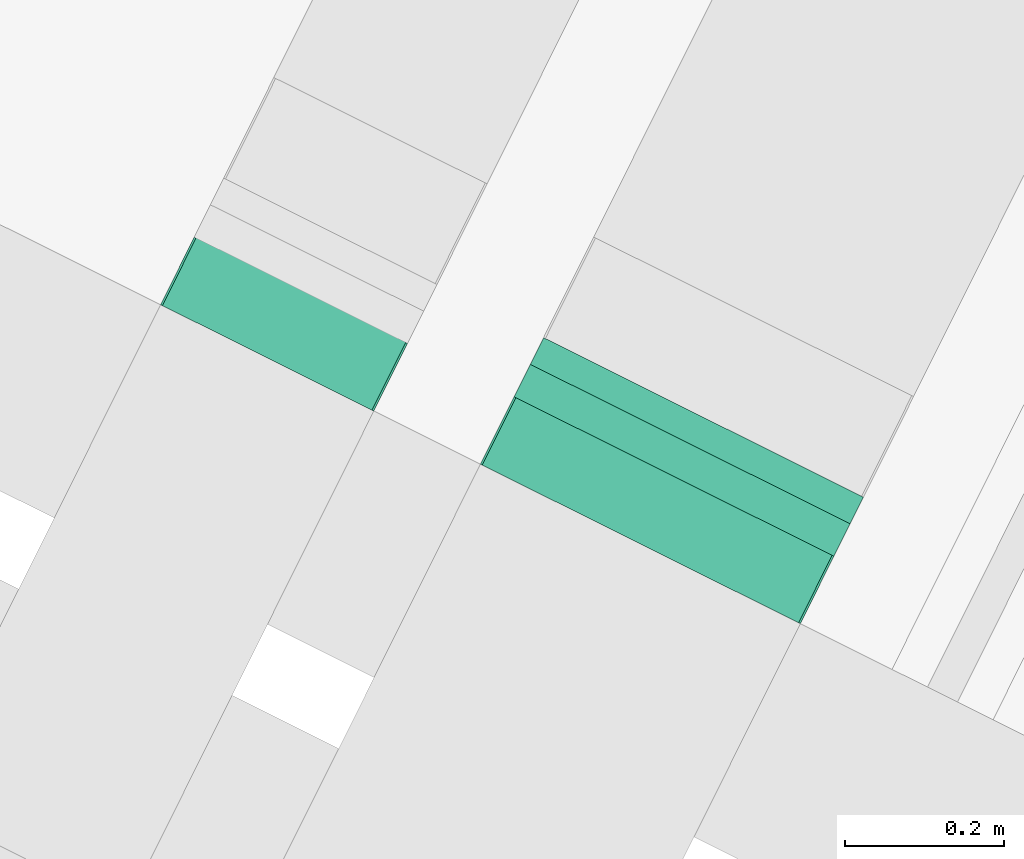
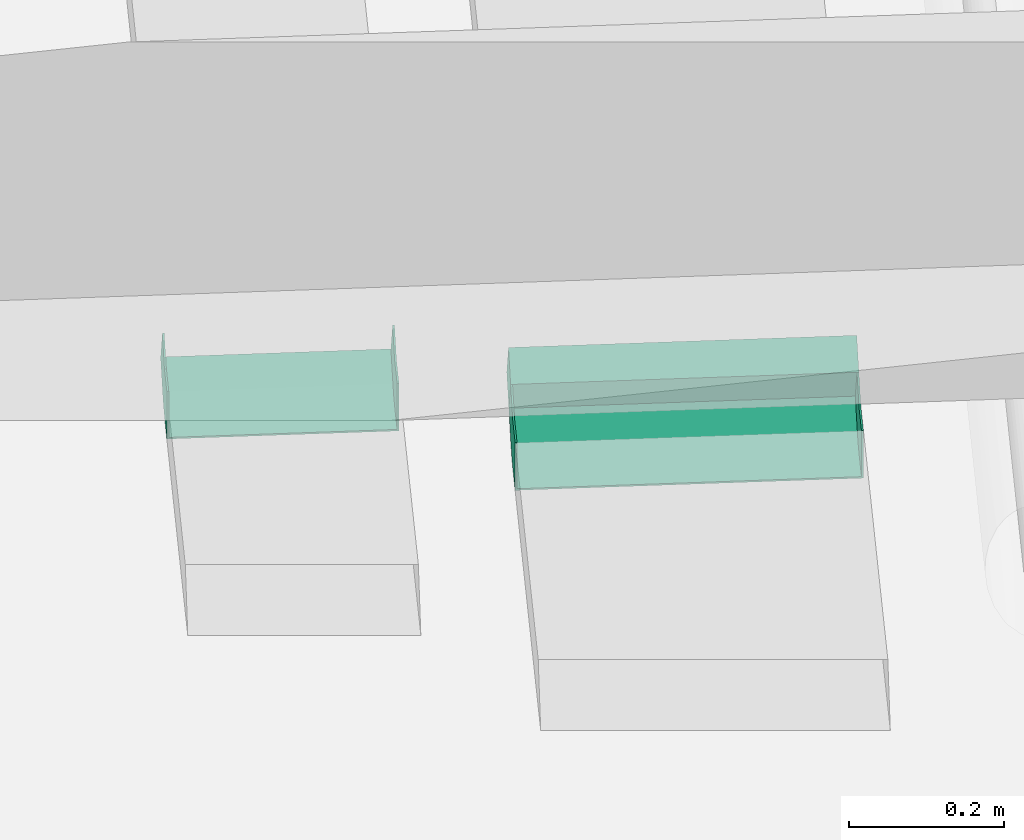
# One storey, part 28 of 47: 2 flow fittings, 1 flow segment.
"""IFC2X3 building model written with IfcOpenShell, lengths in metres."""

import ifcopenshell
import ifcopenshell.guid

model = None  # the IFC model being written
_history = None  # IfcOwnerHistory: only IFC2X3 demands one
_inside = {}  # id of a spatial element -> (the spatial element, [elements in it])
_under = {}  # id of a project, library or spatial element -> (it, [spatial elements below it])
_declared = {}  # id of a project -> (the project, [libraries it declares])
_typed = {}  # id of a type object -> (the type object, [elements of that type])
_made_of = {}  # id of a material, layer set ... -> (it, [elements and type objects made of it])


def new_model(schema):
    """Start an empty IFC model of exactly this schema.

    Asked for "IFC4X3", IfcOpenShell would pick the latest addendum, in which some entities
    have other attributes; the version numbers below select the first issue.
    IFC2X3 requires an IfcOwnerHistory on every rooted entity: one is made here for all.
    """
    global model, _history
    if schema == "IFC4X3":
        model = ifcopenshell.file(schema_version=(4, 3, 0, 0))
    else:
        model = ifcopenshell.file(schema=schema)
    _inside.clear()
    _under.clear()
    _declared.clear()
    _typed.clear()
    _made_of.clear()
    _history = None
    if model.schema == "IFC2X3":
        org = make("IfcOrganization", Name="unknown")
        user = make(
            "IfcPersonAndOrganization",
            ThePerson=make("IfcPerson", FamilyName="unknown"),
            TheOrganization=org,
        )
        app = make(
            "IfcApplication",
            ApplicationDeveloper=org,
            Version="unknown",
            ApplicationFullName="unknown",
            ApplicationIdentifier="unknown",
        )
        _history = make(
            "IfcOwnerHistory",
            OwningUser=user,
            OwningApplication=app,
            ChangeAction="ADDED",
            CreationDate=0,
        )
    return model


def make(cls, **values):
    """One entity of the class cls with the attributes given. An attribute that is None is left unset."""
    return model.create_entity(
        cls, **{name: value for name, value in values.items() if value is not None}
    )


def entity(cls, *values):
    """Any entity or typed value of the class cls, its attributes in the order of the schema. None: left unset."""
    e = model.create_entity(cls)
    for i, value in enumerate(values):
        if value is not None:
            e[i] = value
    return e


def rooted(cls, **values):
    """An entity with a GlobalId (a new one), such as an element, a storey or a relation."""
    return make(cls, GlobalId=ifcopenshell.guid.new(), OwnerHistory=_history, **values)


def si_unit(unit_type, name, prefix=None):
    """IfcSIUnit, for example si_unit("LENGTHUNIT", "METRE", prefix="MILLI")."""
    return make("IfcSIUnit", UnitType=unit_type, Prefix=prefix, Name=name)


def converted_unit(unit_type, name, factor, base, dimensions=None, offset=None):
    """IfcConversionBasedUnit, such as the inch: factor (a typed value) times the base unit."""
    return make(
        "IfcConversionBasedUnit"
        if offset is None
        else "IfcConversionBasedUnitWithOffset",
        ConversionOffset=offset,
        Dimensions=None
        if dimensions is None
        else entity("IfcDimensionalExponents", *dimensions),
        UnitType=unit_type,
        Name=name,
        ConversionFactor=make(
            "IfcMeasureWithUnit", ValueComponent=factor, UnitComponent=base
        ),
    )


def derived_unit(unit_type, elements):
    """IfcDerivedUnit: a product of units, each with its exponent."""
    return make(
        "IfcDerivedUnit",
        Elements=[
            make("IfcDerivedUnitElement", Unit=unit, Exponent=power)
            for unit, power in elements
        ],
        UnitType=unit_type,
    )


def assignment(units):
    """IfcUnitAssignment: the units of a project."""
    return None if units is None else make("IfcUnitAssignment", Units=units)


def point(xyz):
    """IfcCartesianPoint."""
    return None if xyz is None else make("IfcCartesianPoint", Coordinates=xyz)


def direction(xyz):
    """IfcDirection."""
    return None if xyz is None else make("IfcDirection", DirectionRatios=xyz)


def frame(location, z_axis=None, x_axis=None):
    """IfcAxis2Placement3D, a coordinate frame: its origin and axes. An axis left out is left unset."""
    return make(
        "IfcAxis2Placement3D",
        Location=point(location),
        Axis=direction(z_axis),
        RefDirection=direction(x_axis),
    )


def frame_2d(location, x_axis=None):
    """IfcAxis2Placement2D, a coordinate frame in the plane: its origin and x axis."""
    return make(
        "IfcAxis2Placement2D", Location=point(location), RefDirection=direction(x_axis)
    )


def origin():
    """The frame at (0, 0, 0) with its axes left unset."""
    return frame((0.0, 0.0, 0.0))


def place(relative_to, where):
    """IfcLocalPlacement: puts the frame where relative to a parent placement (None: the world)."""
    return make(
        "IfcLocalPlacement", PlacementRelTo=relative_to, RelativePlacement=where
    )


def context(
    kind, dimensions, precision=None, world=None, true_north=None, identifier=None
):
    """IfcGeometricRepresentationContext, for example the 3D "Model" context."""
    return make(
        "IfcGeometricRepresentationContext",
        ContextIdentifier=identifier,
        ContextType=kind,
        CoordinateSpaceDimension=dimensions,
        Precision=precision,
        WorldCoordinateSystem=world,
        TrueNorth=true_north,
    )


def subcontext(parent, identifier, kind, view, scale=None):
    """IfcGeometricRepresentationSubContext, for example "Body" below "Model"."""
    return make(
        "IfcGeometricRepresentationSubContext",
        ContextIdentifier=identifier,
        ContextType=kind,
        ParentContext=parent,
        TargetScale=scale,
        TargetView=view,
    )


def project(units=None, contexts=None):
    """IfcProject with its units and contexts."""
    return rooted(
        "IfcProject",
        Name="project",
        RepresentationContexts=contexts,
        UnitsInContext=assignment(units),
    )


def spatial(cls, under=None, at=None, **own):
    """A site, building, storey or space (cls), placed at a placement, below another one or the project."""
    s = rooted(cls, ObjectPlacement=at, **own)
    if under is not None:
        _under.setdefault(under.id(), (under, []))[1].append(s)
    return s


def profile(cls, at=None, kind="AREA", **sizes):
    """A parametric profile (cls). Its sizes go by their IFC names, for example OverallWidth=200.0."""
    return make(cls, ProfileType=kind, Position=at, **sizes)


def rectangle(**sizes):
    """IfcRectangleProfileDef."""
    return profile("IfcRectangleProfileDef", **sizes)


def extrude(swept, where, along, depth):
    """IfcExtrudedAreaSolid: the profile swept, set in the frame where, extruded along a direction by depth."""
    return make(
        "IfcExtrudedAreaSolid",
        SweptArea=swept,
        Position=where,
        ExtrudedDirection=direction(along),
        Depth=depth,
    )


def faces_of(points, faces, orient=None, outer=None):
    """IfcFace entities. A face is a list of loops; a loop is a list of indices into points, from 0.

    orient and outer hold one flag for each loop. By default every Orientation is true, the
    first loop of a face is its IfcFaceOuterBound and the others are IfcFaceBound.
    """
    made = []
    for i, loops in enumerate(faces):
        bounds = []
        for j, loop in enumerate(loops):
            is_outer = j == 0 if outer is None else outer[i][j]
            bounds.append(
                make(
                    "IfcFaceOuterBound" if is_outer else "IfcFaceBound",
                    Bound=make("IfcPolyLoop", Polygon=[points[k] for k in loop]),
                    Orientation=True if orient is None else orient[i][j],
                )
            )
        made.append(make("IfcFace", Bounds=bounds))
    return made


def faceted_brep(points, faces, orient=None, outer=None, voids=None):
    """IfcFacetedBrep: a solid bounded by flat faces; with voids (closed shells), ...WithVoids."""
    shared = [point(p) for p in points]
    hull = make("IfcClosedShell", CfsFaces=faces_of(shared, faces, orient, outer))
    if voids is None:
        return make("IfcFacetedBrep", Outer=hull)
    return make(
        "IfcFacetedBrepWithVoids",
        Outer=hull,
        Voids=[
            make(cls, CfsFaces=faces_of(shared, fs, o, b)) for cls, fs, o, b in voids
        ],
    )


def shape(context_of_items, identifier, shape_type, items):
    """IfcShapeRepresentation: the items that make up one representation, for example the "Body"."""
    return make(
        "IfcShapeRepresentation",
        ContextOfItems=context_of_items,
        RepresentationIdentifier=identifier,
        RepresentationType=shape_type,
        Items=items,
    )


def source(mapping_origin, context_of_items, identifier, shape_type, items):
    """IfcRepresentationMap: a shape defined once, which mapped items show again and again."""
    return make(
        "IfcRepresentationMap",
        MappingOrigin=mapping_origin,
        MappedRepresentation=shape(context_of_items, identifier, shape_type, items),
    )


def transform(
    local_origin,
    x_axis=None,
    y_axis=None,
    z_axis=None,
    scale=None,
    scale2=None,
    scale3=None,
    uniform=True,
):
    """IfcCartesianTransformationOperator3D, or its non-uniform kind. x_axis, y_axis, z_axis: its Axis1, 2, 3."""
    if uniform:
        return make(
            "IfcCartesianTransformationOperator3D",
            Axis1=direction(x_axis),
            Axis2=direction(y_axis),
            LocalOrigin=point(local_origin),
            Scale=scale,
            Axis3=direction(z_axis),
        )
    return make(
        "IfcCartesianTransformationOperator3DnonUniform",
        Axis1=direction(x_axis),
        Axis2=direction(y_axis),
        LocalOrigin=point(local_origin),
        Scale=scale,
        Axis3=direction(z_axis),
        Scale2=scale2,
        Scale3=scale3,
    )


def mapped(mapping_source, mapping_target):
    """IfcMappedItem: shows the shape of a source again, moved by a transform."""
    return make(
        "IfcMappedItem", MappingSource=mapping_source, MappingTarget=mapping_target
    )


def made_of(thing, what):
    """Note that an element or type object is made of a material, layer set ...; save() writes the relation."""
    if what is not None:
        _made_of.setdefault(what.id(), (what, []))[1].append(thing)
    return thing


def type_object(cls, material=None, **own):
    """A type object (cls), such as IfcWallType, which elements share."""
    return made_of(rooted(cls, **own), material)


def type_shapes(of_type, sources):
    """Give a type object the sources (RepresentationMaps) that its elements show as mapped items."""
    of_type.RepresentationMaps = sources


def element(
    cls,
    number,
    at=None,
    inside=None,
    cuts=None,
    type_object=None,
    material=None,
    context=None,
    identifier="Body",
    shape_type=None,
    held_by="IfcProductDefinitionShape",
    body=None,
    shapes=None,
    **own,
):
    """One element of the class cls, such as IfcWall. Its Tag is "e" and its number.

    at: its placement. inside: the storey or other place that contains it. cuts: it is an
    opening in that element (IfcRelVoidsElement). A single representation is given by context,
    identifier, shape_type and body (its items); several are given by shapes. held_by: the class
    of the entity that holds the representations. save() writes the other relations.
    """
    e = rooted(cls, Tag="e%d" % number, ObjectPlacement=at, **own)
    if body is not None:
        shapes = [shape(context, identifier, shape_type, body)]
    if shapes is not None:
        e.Representation = make(held_by, Representations=shapes)
    if inside is not None:
        _inside.setdefault(inside.id(), (inside, []))[1].append(e)
    if cuts is not None:
        rooted(
            "IfcRelVoidsElement", RelatingBuildingElement=cuts, RelatedOpeningElement=e
        )
    if type_object is not None:
        _typed.setdefault(type_object.id(), (type_object, []))[1].append(e)
    return made_of(e, material)


def aggregate(whole, parts):
    """IfcRelAggregates: a whole, such as a stair, and the parts it consists of."""
    return rooted("IfcRelAggregates", RelatingObject=whole, RelatedObjects=parts)


def save(model, path):
    """Write the relations noted so far, then the file.

    IfcRelAggregates (storeys below a building ...), IfcRelContainedInSpatialStructure (elements
    in a storey), IfcRelDefinesByType, IfcRelAssociatesMaterial and IfcRelDeclares: one each for
    every whole, place, type object, material and project.
    """
    for whole, parts in _under.values():
        aggregate(whole, parts)
    for where, things in _inside.values():
        rooted(
            "IfcRelContainedInSpatialStructure",
            RelatedElements=things,
            RelatingStructure=where,
        )
    for kind, things in _typed.values():
        rooted("IfcRelDefinesByType", RelatedObjects=things, RelatingType=kind)
    for what, things in _made_of.values():
        rooted("IfcRelAssociatesMaterial", RelatedObjects=things, RelatingMaterial=what)
    for by, libraries in _declared.values():
        rooted("IfcRelDeclares", RelatingContext=by, RelatedDefinitions=libraries)
    model.write(path)


model = new_model("IFC2X3")

# Units and contexts
model_context = context("Model", 3, precision=1e-05, world=origin(), true_north=direction((0.894925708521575, 0.446215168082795)))
context_of_model = context(None, 3, precision=1e-05, world=origin(), true_north=direction((0.894925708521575, 0.446215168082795)))
body_context = subcontext(model_context, "Body", "Model", "MODEL_VIEW")
ifc_project = project(units=[si_unit("LENGTHUNIT", "METRE"), si_unit("AREAUNIT", "SQUARE_METRE"), si_unit("VOLUMEUNIT", "CUBIC_METRE"), converted_unit("PLANEANGLEUNIT", "DEGREE", entity("IfcRatioMeasure", 0.0174532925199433), si_unit("PLANEANGLEUNIT", "RADIAN"), dimensions=[0, 0, 0, 0, 0, 0, 0]), si_unit("MASSUNIT", "GRAM", prefix="KILO"), si_unit("TIMEUNIT", "SECOND"), si_unit("FREQUENCYUNIT", "HERTZ"), si_unit("THERMODYNAMICTEMPERATUREUNIT", "DEGREE_CELSIUS"), derived_unit("THERMALTRANSMITTANCEUNIT", [(si_unit("MASSUNIT", "GRAM", prefix="KILO"), 1), (si_unit("THERMODYNAMICTEMPERATUREUNIT", "KELVIN"), -1), (si_unit("TIMEUNIT", "SECOND"), -3)]), derived_unit("VOLUMETRICFLOWRATEUNIT", [(si_unit("LENGTHUNIT", "METRE"), 3), (si_unit("TIMEUNIT", "SECOND"), -1)]), si_unit("ELECTRICCURRENTUNIT", "AMPERE"), si_unit("ELECTRICVOLTAGEUNIT", "VOLT"), si_unit("POWERUNIT", "WATT"), si_unit("FORCEUNIT", "NEWTON", prefix="KILO"), si_unit("ILLUMINANCEUNIT", "LUX"), si_unit("LUMINOUSFLUXUNIT", "LUMEN"), si_unit("LUMINOUSINTENSITYUNIT", "CANDELA"), si_unit("PRESSUREUNIT", "PASCAL")], contexts=[model_context, context_of_model])

# Site, building, storey
site_placement = place(None, frame((218.228324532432, 584.720189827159, 0.0), z_axis=(0.0, 0.0, 1.0), x_axis=(0.446215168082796, 0.894925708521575, 0.0)))
site = spatial("IfcSite", under=ifc_project, at=site_placement, Name="Default", CompositionType="ELEMENT")
building_placement = place(site_placement, origin())
building = spatial("IfcBuilding", under=site, at=building_placement, CompositionType="ELEMENT")
storey_placement = place(building_placement, frame((0.0, 0.0, 4.69)))
storey = spatial("IfcBuildingStorey", under=building, at=storey_placement, Name="1 - Piano Primo", CompositionType="ELEMENT", Elevation=4.69)

# Flow segment
cable_carrier_segment_type = type_object("IfcCableCarrierSegmentType", Name="Passerella con raccordi:Passerella canale", PredefinedType="NOTDEFINED")
flow_segment_placement = place(storey_placement, frame((-12.3895004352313, -3.95107899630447, 2.82822448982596)))
element("IfcFlowSegment", 1, at=flow_segment_placement, inside=storey, type_object=cable_carrier_segment_type, Name="Passerella con raccordi:Passerella canale", ObjectType="Passerella con raccordi:Passerella canale", context=body_context, shape_type="SweptSolid", body=[
    extrude(rectangle(XDim=0.0749999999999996, YDim=0.0527002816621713, at=frame_2d((2.70616862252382e-16, -4.68375338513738e-16), x_axis=(0.0, 1.0))), frame((0.0415698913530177, 0.0, 0.0456510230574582), z_axis=(0.0, 1.0, 0.0), x_axis=(0.866025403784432, 0.0, 0.500000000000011)), (0.0, 0.0, 1.0), 0.45),
])

# Flow fittings
cable_carrier_fitting_type_1 = type_object("IfcCableCarrierFittingType", Name="Standard", PredefinedType="NOTDEFINED")
shared_shape_1 = source(origin(), body_context, "Body", "Brep", [
    faceted_brep([(-0.0608988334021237, -0.0349600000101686, -0.147460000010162), (-0.0608988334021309, 0.0374999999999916, -0.147460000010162), (-0.0608988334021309, 0.0374999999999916, -0.150000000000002), (-0.0608988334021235, -0.0375000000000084, -0.150000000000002), (-0.0608988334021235, -0.0375000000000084, 0.149999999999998), (-0.0608988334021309, 0.0374999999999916, 0.149999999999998), (-0.0608988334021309, 0.0374999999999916, 0.147460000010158), (-0.0608988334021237, -0.0349600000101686, 0.147460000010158), (0.0339899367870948, 0.0629253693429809, -0.150000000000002), (0.0339899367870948, 0.0629253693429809, -0.147460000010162), (0.0702199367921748, 0.000173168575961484, -0.147460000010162), (0.0702199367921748, 0.000173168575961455, 0.147460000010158), (0.0339899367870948, 0.0629253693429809, 0.147460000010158), (0.0339899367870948, 0.0629253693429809, 0.149999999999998), (0.0714899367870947, -0.00202653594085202, 0.149999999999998), (0.0714899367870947, -0.00202653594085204, -0.150000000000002), (-0.0108988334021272, -0.0375000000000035, 0.149999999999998), (0.00933434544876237, -0.0348362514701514, 0.149999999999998), (0.0281886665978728, -0.027026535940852, 0.149999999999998), (-0.00931133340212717, 0.0379253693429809, 0.149999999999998), (-0.0100770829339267, 0.0376081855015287, 0.149999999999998), (-0.0108988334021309, 0.0374999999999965, 0.149999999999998), (-0.0108988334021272, -0.0375000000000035, -0.150000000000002), (-0.0108988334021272, -0.0375000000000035, -0.00436238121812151), (-0.0108988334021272, 0.0374999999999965, -0.150000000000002), (-0.0100770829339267, 0.0376081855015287, -0.150000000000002), (-0.00931133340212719, 0.037925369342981, -0.150000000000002), (0.0281886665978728, -0.027026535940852, -0.150000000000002), (0.00933434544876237, -0.0348362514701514, -0.150000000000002), (-0.0108988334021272, 0.0374999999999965, -0.147460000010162), (-0.0108988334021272, 0.0374999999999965, 0.147460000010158), (-0.0108988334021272, -0.0349600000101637, -0.147460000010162), (0.00867694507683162, -0.0323827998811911, -0.147460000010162), (0.0269186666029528, -0.0248268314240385, -0.147460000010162), (-0.00931133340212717, 0.0379253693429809, -0.147460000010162), (-0.0100770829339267, 0.0376081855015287, -0.147460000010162), (-0.0108988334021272, -0.0349600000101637, 0.147460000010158), (-0.0108988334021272, -0.0349600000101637, -0.00437396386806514), (-0.0100770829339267, 0.0376081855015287, 0.147460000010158), (-0.00931133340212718, 0.0379253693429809, 0.147460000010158), (0.0269186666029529, -0.0248268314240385, 0.147460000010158), (0.00867694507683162, -0.0323827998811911, 0.147460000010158), (0.00517118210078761, -0.0358304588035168, 0.0), (0.0281886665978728, -0.027026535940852, -0.00436237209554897), (0.00483151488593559, -0.0333061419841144, 0.0), (0.0269186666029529, -0.0248268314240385, -0.00437395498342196)], [[[0, 1, 2, 3, 4, 5, 6, 7]], [[8, 9, 10, 11, 12, 13, 14, 15]], [[4, 16, 17, 18, 14, 13, 19, 20, 21, 5]], [[4, 3, 22, 23, 16]], [[2, 24, 25, 26, 8, 15, 27, 28, 22, 3]], [[2, 1, 29, 24]], [[6, 5, 21, 30]], [[0, 31, 32, 33, 10, 9, 34, 35, 29, 1]], [[0, 7, 36, 37, 31]], [[6, 30, 38, 39, 12, 11, 40, 41, 36, 7]], [[16, 23, 22, 42]], [[43, 28, 27]], [[43, 18, 17]], [[42, 22, 28]], [[43, 17, 42]], [[43, 42, 28]], [[16, 42, 17]], [[29, 35, 25, 24]], [[20, 38, 30, 21]], [[34, 26, 25, 35]], [[19, 39, 38, 20]], [[44, 31, 37, 36]], [[33, 32, 45]], [[41, 40, 45]], [[32, 31, 44]], [[44, 41, 45]], [[32, 44, 45]], [[41, 44, 36]], [[15, 14, 18, 43, 27]], [[26, 34, 9, 8]], [[39, 19, 13, 12]], [[11, 10, 33, 45, 40]]]),
])
type_shapes(cable_carrier_fitting_type_1, [shared_shape_1])
flow_fitting_1_placement = place(storey_placement, frame((-12.4234903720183, -3.20107899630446, 2.93025102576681), z_axis=(0.0, -1.0, 0.0), x_axis=(1.0, 0.0, 0.0)))
element("IfcFlowFitting", 2, at=flow_fitting_1_placement, inside=storey, type_object=cable_carrier_fitting_type_1, Name="M_Curvatura interna verticale canale:Standard", ObjectType="Standard", context=body_context, shape_type="MappedRepresentation", body=[
    mapped(shared_shape_1, transform((0.0, 0.0, 0.0), scale=1.0)),
])
cable_carrier_fitting_type_2 = type_object("IfcCableCarrierFittingType", Name="Standard", PredefinedType="NOTDEFINED")
shared_shape_2 = source(origin(), body_context, "Body", "Brep", [
    faceted_brep([(-0.0608988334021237, -0.0349600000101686, -0.222460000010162), (-0.0608988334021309, 0.0374999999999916, -0.222460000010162), (-0.0608988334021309, 0.0374999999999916, -0.225000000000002), (-0.0608988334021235, -0.0375000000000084, -0.225000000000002), (-0.0608988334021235, -0.0375000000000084, 0.224999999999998), (-0.0608988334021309, 0.0374999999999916, 0.224999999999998), (-0.0608988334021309, 0.0374999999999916, 0.222460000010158), (-0.0608988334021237, -0.0349600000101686, 0.222460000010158), (0.0339899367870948, 0.0629253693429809, -0.225000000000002), (0.0339899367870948, 0.0629253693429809, -0.222460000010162), (0.0702199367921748, 0.00017316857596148, -0.222460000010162), (0.0702199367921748, 0.000173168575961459, 0.222460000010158), (0.0339899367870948, 0.0629253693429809, 0.222460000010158), (0.0339899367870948, 0.0629253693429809, 0.224999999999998), (0.0714899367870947, -0.00202653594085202, 0.224999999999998), (0.0714899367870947, -0.00202653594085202, -0.225000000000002), (-0.0108988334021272, -0.0375000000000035, 0.224999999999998), (0.00933434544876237, -0.0348362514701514, 0.224999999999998), (0.0281886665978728, -0.027026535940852, 0.224999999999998), (-0.00931133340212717, 0.0379253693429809, 0.224999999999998), (-0.0100770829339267, 0.0376081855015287, 0.224999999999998), (-0.0108988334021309, 0.0374999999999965, 0.224999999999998), (-0.0108988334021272, -0.0375000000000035, -0.225000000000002), (-0.0108988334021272, -0.0375000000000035, -0.0837247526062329), (-0.0108988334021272, -0.0375000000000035, 0.0706376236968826), (-0.0108988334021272, 0.0374999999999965, -0.225000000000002), (-0.0100770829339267, 0.0376081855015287, -0.225000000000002), (-0.00931133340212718, 0.0379253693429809, -0.225000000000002), (0.0281886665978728, -0.027026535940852, -0.225000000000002), (0.00933434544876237, -0.0348362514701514, -0.225000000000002), (-0.0108988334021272, 0.0374999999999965, -0.222460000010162), (-0.0108988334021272, 0.0374999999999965, 0.222460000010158), (-0.0108988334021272, -0.0349600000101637, -0.222460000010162), (0.00867694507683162, -0.0323827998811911, -0.222460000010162), (0.0269186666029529, -0.0248268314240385, -0.222460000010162), (-0.00931133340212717, 0.0379253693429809, -0.222460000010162), (-0.0100770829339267, 0.0376081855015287, -0.222460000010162), (-0.0108988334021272, -0.0349600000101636, 0.222460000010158), (-0.0108988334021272, -0.0349600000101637, 0.0706260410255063), (-0.0108988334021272, -0.0349600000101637, -0.0812079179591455), (-0.0100770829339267, 0.0376081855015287, 0.222460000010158), (-0.00931133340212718, 0.0379253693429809, 0.222460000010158), (0.0269186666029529, -0.0248268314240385, 0.222460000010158), (0.00867694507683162, -0.0323827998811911, 0.222460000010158), (0.0281886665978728, -0.027026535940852, -0.0837247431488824), (0.0281886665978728, -0.027026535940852, 0.0706376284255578), (0.00933434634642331, -0.0348362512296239, -0.00654356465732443), (0.0269186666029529, -0.0248268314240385, -0.0812079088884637), (0.0269186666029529, -0.0248268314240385, 0.0706260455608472), (0.00867694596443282, -0.0323827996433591, -0.00529093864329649)], [[[0, 1, 2, 3, 4, 5, 6, 7]], [[8, 9, 10, 11, 12, 13, 14, 15]], [[4, 16, 17, 18, 14, 13, 19, 20, 21, 5]], [[4, 3, 22, 23, 24, 16]], [[2, 25, 26, 27, 8, 15, 28, 29, 22, 3]], [[2, 1, 30, 25]], [[6, 5, 21, 31]], [[0, 32, 33, 34, 10, 9, 35, 36, 30, 1]], [[0, 7, 37, 38, 39, 32]], [[6, 31, 40, 41, 12, 11, 42, 43, 37, 7]], [[44, 29, 28]], [[18, 17, 45]], [[46, 44, 45]], [[17, 16, 24]], [[29, 23, 22]], [[29, 46, 23]], [[24, 46, 17]], [[46, 29, 44]], [[45, 17, 46]], [[23, 46, 24]], [[30, 36, 26, 25]], [[20, 40, 31, 21]], [[35, 27, 26, 36]], [[19, 41, 40, 20]], [[34, 33, 47]], [[48, 43, 42]], [[48, 47, 49]], [[38, 37, 43]], [[32, 39, 33]], [[39, 49, 33]], [[43, 49, 38]], [[47, 33, 49]], [[49, 43, 48]], [[38, 49, 39]], [[15, 14, 18, 45, 44, 28]], [[27, 35, 9, 8]], [[41, 19, 13, 12]], [[11, 10, 34, 47, 48, 42]]]),
])
type_shapes(cable_carrier_fitting_type_2, [shared_shape_2])
flow_fitting_2_placement = place(storey_placement, frame((-12.4234903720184, -3.72607899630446, 2.83025102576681), z_axis=(0.0, -1.0, 0.0), x_axis=(1.0, 0.0, 0.0)))
element("IfcFlowFitting", 3, at=flow_fitting_2_placement, inside=storey, type_object=cable_carrier_fitting_type_2, Name="M_Curvatura interna verticale canale:Standard", ObjectType="Standard", context=body_context, shape_type="MappedRepresentation", body=[
    mapped(shared_shape_2, transform((0.0, 0.0, 0.0), scale=1.0)),
])

save(model, "model.ifc")
